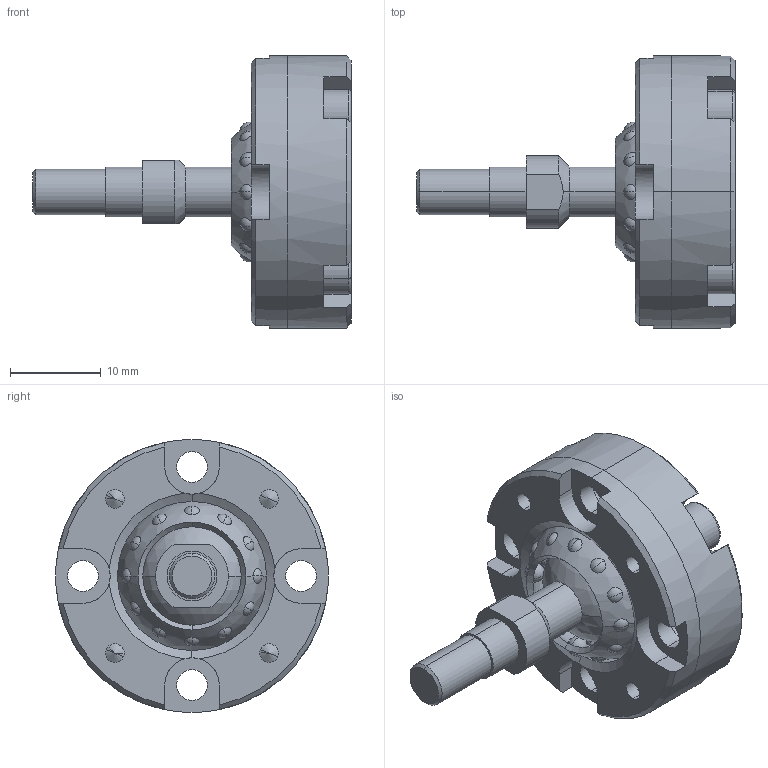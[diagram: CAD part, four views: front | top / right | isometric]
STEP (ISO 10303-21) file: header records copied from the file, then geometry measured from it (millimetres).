
FILE_DESCRIPTION (( 'STEP AP203' ), '1' );
FILE_NAME ('SR JOINT - SRJ008C.STEP', '2010-06-01T19:33:14', ( 'render' ), ( '' ), 'SwSTEP 2.0', 'SolidWorks 2009', '' );
FILE_SCHEMA (( 'CONFIG_CONTROL_DESIGN' ));
Length unit declared in the file: millimetre
Products named in the file (1): SR JOINT - SRJ008C
Bounding box: 35 x 30 x 30 mm (x, y, z)
Surface area: 6358.8 mm2 (no closed solid volume)
Topology: 0 solids, 8 shells, 323 faces, 829 edges, 554 vertices
Faces by surface type: sphere 146, plane 87, cylinder 55, cone 27, torus 8
Entity records: 10068 total; most frequent: DIRECTION 1962, CARTESIAN_POINT 1757, ORIENTED_EDGE 1512, AXIS2_PLACEMENT_3D 866, EDGE_CURVE 798, CIRCLE 542, VERTEX_POINT 541, EDGE_LOOP 435
